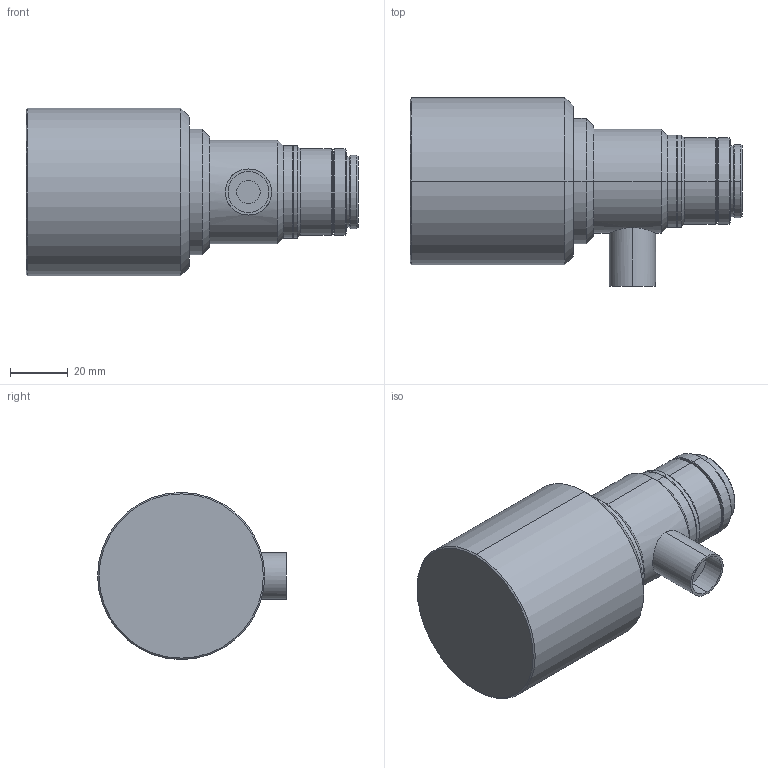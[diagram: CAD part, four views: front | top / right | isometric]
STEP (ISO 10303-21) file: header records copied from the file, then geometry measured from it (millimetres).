
FILE_DESCRIPTION (( 'STEP AP214' ), '1' );
FILE_NAME ('VS-TCM022-110CO-1_1.8.STEP', '2020-08-17T06:02:57', ( '' ), ( '' ), 'SwSTEP 2.0', 'SolidWorks 2020', '' );
FILE_SCHEMA (( 'AUTOMOTIVE_DESIGN' ));
Length unit declared in the file: millimetre
Products named in the file (1): VS-TCM022-110CO-1_1.8
Bounding box: 115.2 x 65.5 x 58 mm (x, y, z)
Volume: 204954.2 mm3; surface area: 22757.3 mm2
Topology: 1 solids, 1 shells, 62 faces, 122 edges, 70 vertices
Faces by surface type: cylinder 26, cone 26, plane 10
Entity records: 1708 total; most frequent: CARTESIAN_POINT 351, DIRECTION 314, ORIENTED_EDGE 244, AXIS2_PLACEMENT_3D 131, EDGE_CURVE 122, VERTEX_POINT 70, EDGE_LOOP 70, CIRCLE 68
